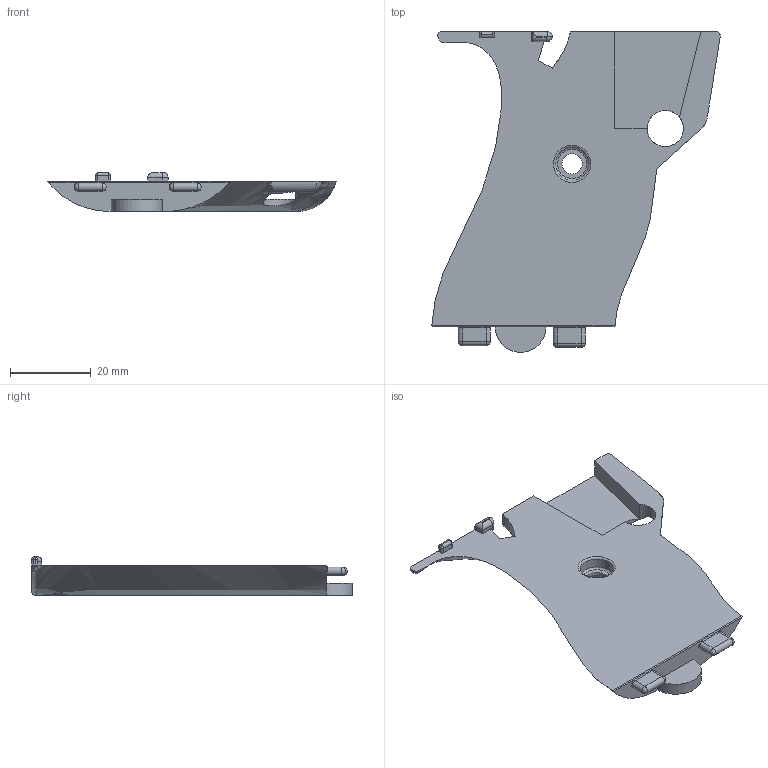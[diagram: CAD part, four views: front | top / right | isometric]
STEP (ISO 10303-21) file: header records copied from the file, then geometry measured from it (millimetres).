
FILE_DESCRIPTION(/* description */ (''),/* implementation_level */ '2;1');
FILE_NAME(/* name */ '//vboxsvr/bigsql-win-testing/CAD/DD2-GIT/freeman1337/freeman1337-lopoint-v2/Accessories/Grips/STEP/Freeman1337-lopoint-grip-L.step',/* time_stamp */ '2021-05-10T14:43:48-07:00',/* author */ (''),/* organization */ (''),/* preprocessor_version */ 'ST-DEVELOPER v18.1',/* originating_system */ 'Autodesk Translation Framework v10.6.0.1341',/* authorisation */ '');
FILE_SCHEMA (('AUTOMOTIVE_DESIGN { 1 0 10303 214 3 1 1 }'));
Products named in the file (1): Freeman1337-lopoint-grip-L
Bounding box: 71.37 x 79.3 x 9.6 mm (x, y, z)
Volume: 18150.8 mm3; surface area: 8813.8 mm2
Topology: 3 solids, 3 shells, 1698 faces, 4774 edges, 3156 vertices
Faces by surface type: bspline 1398, plane 239, cylinder 45, torus 11, sphere 5
Full cylindrical faces by diameter (mm): 4.472 x1, 5 x1, 8.2 x2, 8.985 x1
Entity records: 60300 total; most frequent: CARTESIAN_POINT 30141, ORIENTED_EDGE 9532, EDGE_CURVE 4766, VERTEX_POINT 3156, DIRECTION 2665, LINE 1817, VECTOR 1817, EDGE_LOOP 1785
